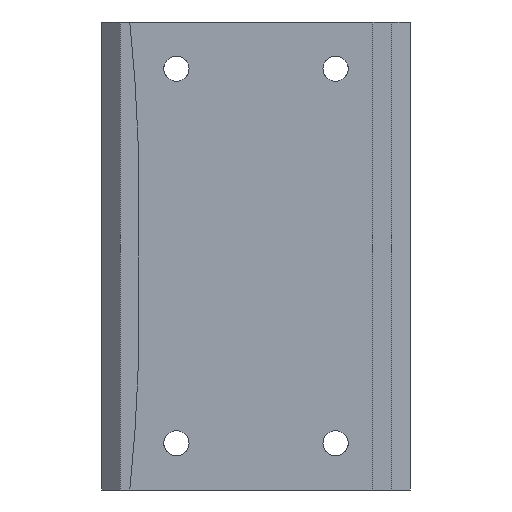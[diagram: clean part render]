
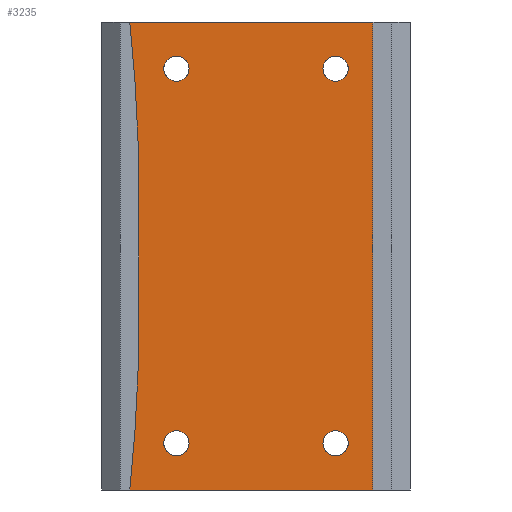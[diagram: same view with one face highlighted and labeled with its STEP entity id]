
A CAD part, front view. The second image highlights one B-rep face of the part: STEP entity #3235.
In plain terms, the highlighted planar face has unit normal (0, -1, 0).
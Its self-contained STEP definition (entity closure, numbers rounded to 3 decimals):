
#33=FACE_BOUND('',#350,.T.);
#34=FACE_BOUND('',#351,.T.);
#35=FACE_BOUND('',#352,.T.);
#36=FACE_BOUND('',#353,.T.);
#65=PLANE('',#3540);
#173=FACE_OUTER_BOUND('',#349,.T.);
#349=EDGE_LOOP('',(#2511,#2512,#2513,#2514,#2515,#2516));
#350=EDGE_LOOP('',(#2517));
#351=EDGE_LOOP('',(#2518));
#352=EDGE_LOOP('',(#2519));
#353=EDGE_LOOP('',(#2520));
#453=CIRCLE('',#3344,1.35);
#454=CIRCLE('',#3347,1.35);
#455=CIRCLE('',#3350,1.35);
#456=CIRCLE('',#3353,1.35);
#460=CIRCLE('',#3365,180.);
#461=CIRCLE('',#3367,180.);
#712=LINE('',#4922,#970);
#716=LINE('',#4933,#974);
#753=LINE('',#5017,#1011);
#817=LINE('',#5339,#1075);
#970=VECTOR('',#3827,10.);
#974=VECTOR('',#3841,10.);
#1011=VECTOR('',#3904,10.);
#1075=VECTOR('',#4284,10.);
#1212=VERTEX_POINT('',#4848);
#1214=VERTEX_POINT('',#4854);
#1216=VERTEX_POINT('',#4860);
#1218=VERTEX_POINT('',#4866);
#1228=VERTEX_POINT('',#4891);
#1238=VERTEX_POINT('',#4916);
#1239=VERTEX_POINT('',#4920);
#1240=VERTEX_POINT('',#4921);
#1241=VERTEX_POINT('',#4928);
#1242=VERTEX_POINT('',#4932);
#1545=EDGE_CURVE('',#1212,#1212,#453,.T.);
#1548=EDGE_CURVE('',#1214,#1214,#454,.T.);
#1551=EDGE_CURVE('',#1216,#1216,#455,.T.);
#1554=EDGE_CURVE('',#1218,#1218,#456,.T.);
#1579=EDGE_CURVE('',#1239,#1240,#712,.T.);
#1582=EDGE_CURVE('',#1240,#1238,#460,.T.);
#1583=EDGE_CURVE('',#1241,#1239,#461,.T.);
#1585=EDGE_CURVE('',#1228,#1242,#716,.T.);
#1628=EDGE_CURVE('',#1238,#1228,#753,.T.);
#1791=EDGE_CURVE('',#1242,#1241,#817,.T.);
#2511=ORIENTED_EDGE('',*,*,#1582,.T.);
#2512=ORIENTED_EDGE('',*,*,#1628,.T.);
#2513=ORIENTED_EDGE('',*,*,#1585,.T.);
#2514=ORIENTED_EDGE('',*,*,#1791,.T.);
#2515=ORIENTED_EDGE('',*,*,#1583,.T.);
#2516=ORIENTED_EDGE('',*,*,#1579,.T.);
#2517=ORIENTED_EDGE('',*,*,#1545,.T.);
#2518=ORIENTED_EDGE('',*,*,#1548,.T.);
#2519=ORIENTED_EDGE('',*,*,#1551,.T.);
#2520=ORIENTED_EDGE('',*,*,#1554,.T.);
#3235=ADVANCED_FACE('',(#173,#33,#34,#35,#36),#65,.T.);
#3344=AXIS2_PLACEMENT_3D('',#4850,#3763,#3764);
#3347=AXIS2_PLACEMENT_3D('',#4856,#3770,#3771);
#3350=AXIS2_PLACEMENT_3D('',#4862,#3777,#3778);
#3353=AXIS2_PLACEMENT_3D('',#4868,#3784,#3785);
#3365=AXIS2_PLACEMENT_3D('',#4926,#3832,#3833);
#3367=AXIS2_PLACEMENT_3D('',#4929,#3836,#3837);
#3540=AXIS2_PLACEMENT_3D('',#5340,#4285,#4286);
#3763=DIRECTION('center_axis',(0.,1.,0.));
#3764=DIRECTION('ref_axis',(0.,0.,1.));
#3770=DIRECTION('center_axis',(0.,1.,0.));
#3771=DIRECTION('ref_axis',(0.,0.,1.));
#3777=DIRECTION('center_axis',(0.,1.,0.));
#3778=DIRECTION('ref_axis',(0.,0.,1.));
#3784=DIRECTION('center_axis',(0.,1.,0.));
#3785=DIRECTION('ref_axis',(0.,0.,1.));
#3827=DIRECTION('',(0.,0.,-1.));
#3832=DIRECTION('center_axis',(0.,1.,0.));
#3833=DIRECTION('ref_axis',(0.707,0.,-0.707));
#3836=DIRECTION('center_axis',(0.,1.,0.));
#3837=DIRECTION('ref_axis',(1.,0.,0.));
#3841=DIRECTION('',(0.,0.,1.));
#3904=DIRECTION('',(1.,0.,0.));
#4284=DIRECTION('',(-1.,0.,0.));
#4285=DIRECTION('center_axis',(0.,-1.,0.));
#4286=DIRECTION('ref_axis',(0.,0.,-1.));
#4848=CARTESIAN_POINT('',(216.,-27.5,-21.35));
#4850=CARTESIAN_POINT('Origin',(216.,-27.5,-20.));
#4854=CARTESIAN_POINT('',(216.,-27.5,18.65));
#4856=CARTESIAN_POINT('Origin',(216.,-27.5,20.));
#4860=CARTESIAN_POINT('',(199.,-27.5,18.65));
#4862=CARTESIAN_POINT('Origin',(199.,-27.5,20.));
#4866=CARTESIAN_POINT('',(199.,-27.5,-21.35));
#4868=CARTESIAN_POINT('Origin',(199.,-27.5,-20.));
#4891=CARTESIAN_POINT('',(220.,-27.5,-25.));
#4916=CARTESIAN_POINT('',(194.017,-27.5,-25.));
#4920=CARTESIAN_POINT('',(195.,-27.5,6.213));
#4921=CARTESIAN_POINT('',(195.,-27.5,-6.213));
#4922=CARTESIAN_POINT('',(195.,-27.5,-3.107));
#4926=CARTESIAN_POINT('Origin',(15.,-27.5,-6.213));
#4928=CARTESIAN_POINT('',(194.017,-27.5,25.));
#4929=CARTESIAN_POINT('Origin',(15.,-27.5,6.213));
#4932=CARTESIAN_POINT('',(220.,-27.5,25.));
#4933=CARTESIAN_POINT('',(220.,-27.5,12.5));
#5017=CARTESIAN_POINT('',(-223.,-27.5,-25.));
#5339=CARTESIAN_POINT('',(223.,-27.5,25.));
#5340=CARTESIAN_POINT('Origin',(207.5,-27.5,0.));
